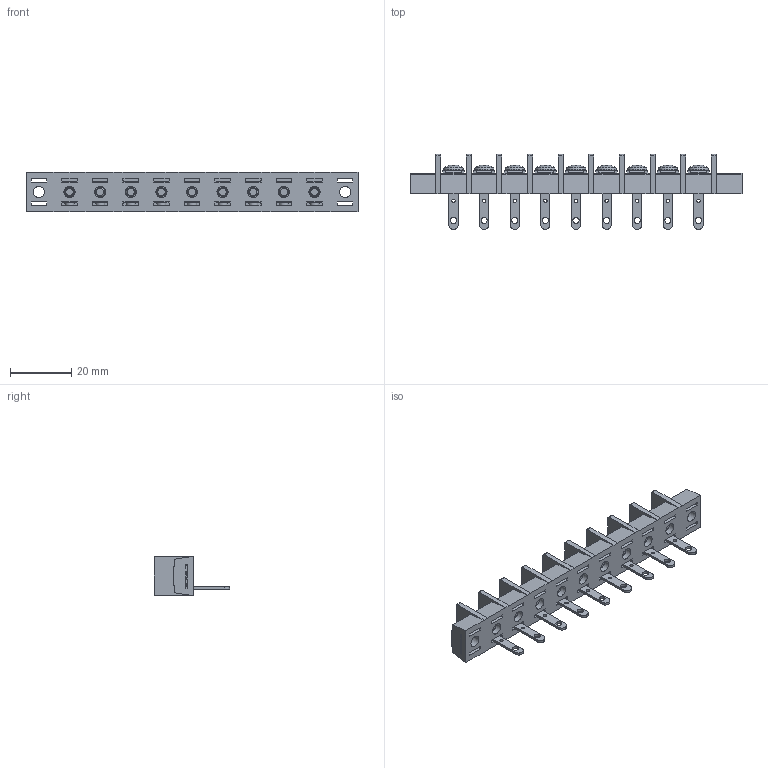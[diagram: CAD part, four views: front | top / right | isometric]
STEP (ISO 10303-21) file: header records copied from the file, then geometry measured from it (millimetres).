
FILE_DESCRIPTION(/* description */ ('Alibre Inc.'),/* implementation_level */ '2;1');
FILE_NAME(/* name */ 'export0',/* time_stamp */ '2015-10-22T20:39:12+09:00',/* author */ (''),/* organization */ (''),/* preprocessor_version */ 'ST-DEVELOPER v14',/* originating_system */ 'Alibre',/* authorisation */ '');
FILE_SCHEMA (('CONFIG_CONTROL_DESIGN'));
Length unit declared in the file: centimetre
Products named in the file (1): ID_1
Bounding box: 108.4 x 24.5 x 12.8 mm (x, y, z)
Volume: 9703.4 mm3; surface area: 11660.1 mm2
Topology: 1 solids, 154 shells, 2959 faces, 7591 edges, 5018 vertices
Faces by surface type: plane 2201, bspline 572, cylinder 114, cone 45, torus 18, sphere 9
Full cylindrical faces by diameter (mm): 1.1 x9, 2 x9, 3 x18, 3.7 x11, 4.6 x11, 6.3 x9
Entity records: 85666 total; most frequent: CARTESIAN_POINT 20636, ORIENTED_EDGE 14972, DIRECTION 9036, EDGE_CURVE 7486, VECTOR 5743, LINE 5743, VERTEX_POINT 5007, EDGE_LOOP 3305
